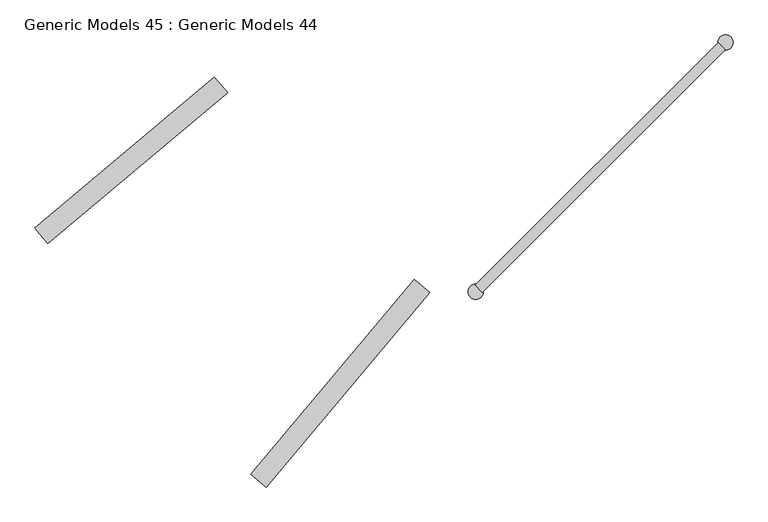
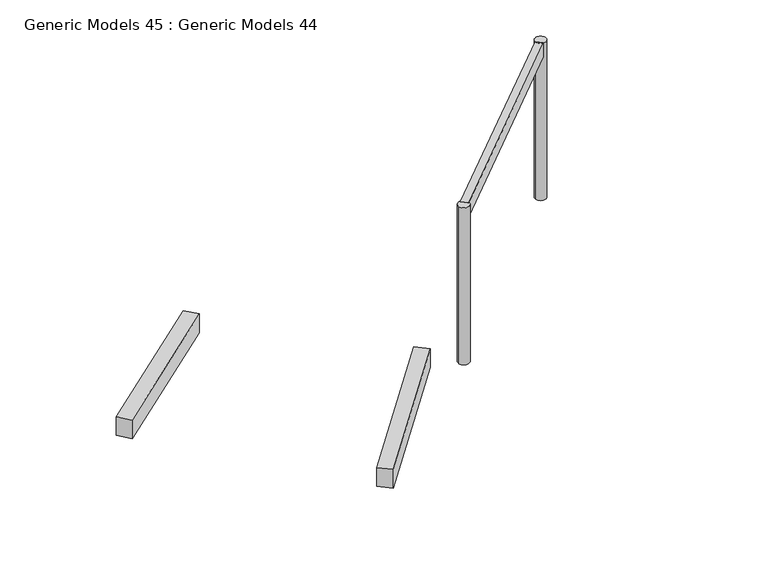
"""IFC4 building model written with IfcOpenShell, lengths in millimetres: proxy geometry, Generic Models 45 : Generic Models 44."""

from ifc_helpers import new_model, si_unit, point, frame, frame_2d, origin, place, context, project, spatial, polyline, circle_curve, trimmed, segment, composite_curve, outline, extrude, source, transform, mapped, element, save


def generic_models_45_generic_models_44_6d9f344f(model_context):
    return source(origin(), model_context, "Body", "SweptSolid", [
        extrude(outline(polyline([(-133936.7634084, -35737.0994253), (-134089.972297, -35608.5419033), (-132478.9449445, -33688.5942681), (-132325.7360558, -33817.1517901), (-133936.7634084, -35737.0994253)])), frame((0.0, 0.0, 42770.0), z_axis=(0.0, 0.0, 1.0), x_axis=(1.0, 0.0, 0.0)), (0.0, 0.0, 1.0), 268.5053554),
        extrude(outline(polyline([(-136085.79025, -33333.9533005), (-136214.3477719, -33180.7444118), (-134445.9800975, -31696.9077484), (-134317.4225755, -31850.116637), (-136085.79025, -33333.9533005)])), frame((0.0, 0.0, 42770.0), z_axis=(0.0, 0.0, 1.0), x_axis=(1.0, 0.0, 0.0)), (0.0, 0.0, 1.0), 268.5053554),
        extrude(outline(polyline([(-131807.9537306, -33817.7796088), (-131878.6644088, -33747.0689307), (-129485.9493713, -31354.3538932), (-129415.2386931, -31425.0645713), (-131807.9537306, -33817.7796088)])), frame((0.0, 0.0, 44746.1646464), z_axis=(0.0, 0.0, 1.0), x_axis=(1.0, 0.0, 0.0)), (0.0, 0.0, 1.0), 195.4634247),
        extrude(outline(composite_curve([segment(trimmed(circle_curve(frame_2d((-131873.0209321, -33810.9678051)), 75.0), [point((-131948.0209321, -33810.9678051))], [point((-131798.0209321, -33810.9678051))], False, "CARTESIAN"), True, "CONTINUOUS"), segment(trimmed(circle_curve(frame_2d((-131873.0209321, -33810.9678051)), 75.0), [point((-131798.0209321, -33810.9678051))], [point((-131948.0209321, -33810.9678051))], False, "CARTESIAN"), True, "CONTINUOUS")], self_intersect=False)), frame((0.0, 0.0, 42695.9057084), z_axis=(0.0, 0.0, 1.0), x_axis=(1.0, 0.0, 0.0)), (0.0, 0.0, 1.0), 2245.7223627),
        extrude(outline(composite_curve([segment(trimmed(circle_curve(frame_2d((-129412.8322028, -31353.5552475)), 75.0), [point((-129487.8322028, -31353.5552475))], [point((-129337.8322028, -31353.5552475))], False, "CARTESIAN"), True, "CONTINUOUS"), segment(trimmed(circle_curve(frame_2d((-129412.8322028, -31353.5552475)), 75.0), [point((-129337.8322028, -31353.5552475))], [point((-129487.8322028, -31353.5552475))], False, "CARTESIAN"), True, "CONTINUOUS")], self_intersect=False)), frame((0.0, 0.0, 42695.9057084), z_axis=(0.0, 0.0, 1.0), x_axis=(1.0, 0.0, 0.0)), (0.0, 0.0, 1.0), 2245.7223627),
    ])


if __name__ == "__main__":
    model = new_model("IFC4")
    model_context = context("Model", 3, world=origin())
    ifc_project = project(units=[si_unit("LENGTHUNIT", "METRE", prefix="MILLI")], contexts=[model_context])
    site = spatial("IfcSite", under=ifc_project)
    building = spatial("IfcBuilding", under=site)
    placement = place(None, origin())
    generic_models_45_generic_models_44_shape = generic_models_45_generic_models_44_6d9f344f(model_context)
    element("IfcBuildingElementProxy", 1, Name="Generic Models 45 : Generic Models 44", ObjectType="Generic Models 45 : Generic Models 44", at=placement, inside=building, context=model_context, shape_type="MappedRepresentation", body=[
        mapped(generic_models_45_generic_models_44_shape, transform((0.0, 0.0, 0.0), x_axis=(1.0, 0.0, 0.0), y_axis=(0.0, 1.0, 0.0), z_axis=(0.0, 0.0, 1.0))),
    ])
    save(model, "model.ifc")
